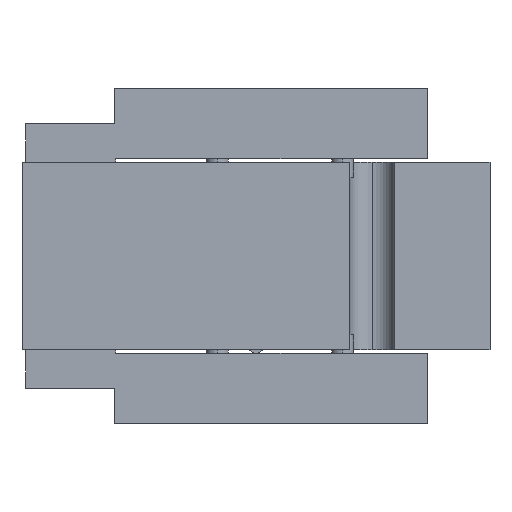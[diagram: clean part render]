
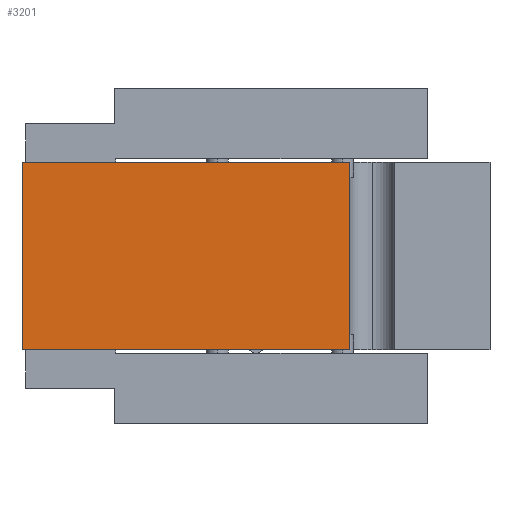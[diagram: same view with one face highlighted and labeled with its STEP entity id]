
A CAD part, left-side view. The second image highlights one B-rep face of the part: STEP entity #3201.
In plain terms, the highlighted planar face has unit normal (-1, 0, 0).
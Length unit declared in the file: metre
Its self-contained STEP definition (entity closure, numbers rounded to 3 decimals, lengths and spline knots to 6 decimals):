
#182 = ORIENTED_EDGE ( 'NONE', *, *, #1731, .T. ) ;
#317 = ORIENTED_EDGE ( 'NONE', *, *, #1759, .T. ) ;
#466 = ORIENTED_EDGE ( 'NONE', *, *, #1918, .T. ) ;
#475 = ORIENTED_EDGE ( 'NONE', *, *, #1816, .F. ) ;
#763 = EDGE_LOOP ( 'NONE', ( #317, #182, #475, #466 ) ) ;
#991 = LINE ( 'NONE', #4348, #998 ) ;
#998 = VECTOR ( 'NONE', #4388, 1. ) ;
#1050 = LINE ( 'NONE', #9406, #1052 ) ;
#1052 = VECTOR ( 'NONE', #9319, 1. ) ;
#1144 = LINE ( 'NONE', #9431, #1146 ) ;
#1146 = VECTOR ( 'NONE', #9443, 1. ) ;
#1731 = EDGE_CURVE ( 'NONE', #4088, #4044, #991, .T. ) ;
#1759 = EDGE_CURVE ( 'NONE', #4007, #4088, #1050, .T. ) ;
#1816 = EDGE_CURVE ( 'NONE', #3931, #4044, #1144, .T. ) ;
#1918 = EDGE_CURVE ( 'NONE', #3931, #4007, #4713, .T. ) ;
#3201 = ADVANCED_FACE ( 'NONE', ( #4642 ), #8372, .F. ) ;
#3931 = VERTEX_POINT ( 'NONE', #13164 ) ;
#4007 = VERTEX_POINT ( 'NONE', #13251 ) ;
#4044 = VERTEX_POINT ( 'NONE', #13288 ) ;
#4088 = VERTEX_POINT ( 'NONE', #13331 ) ;
#4348 = CARTESIAN_POINT ( 'NONE',  ( 0., 0.019, 0.021268 ) ) ;
#4388 = DIRECTION ( 'NONE',  ( 0., 0., 1. ) ) ;
#4424 = DIRECTION ( 'NONE',  ( 0., 0., -1. ) ) ;
#4426 = CARTESIAN_POINT ( 'NONE',  ( 0., 0.0635, 0.046668 ) ) ;
#4642 = FACE_OUTER_BOUND ( 'NONE', #763, .T. ) ;
#4713 = LINE ( 'NONE', #4426, #4849 ) ;
#4849 = VECTOR ( 'NONE', #4424, 1. ) ;
#4939 = AXIS2_PLACEMENT_3D ( 'NONE', #8391, #8392, #8393 ) ;
#8372 = PLANE ( 'NONE',  #4939 ) ;
#8391 = CARTESIAN_POINT ( 'NONE',  ( 0., 0., 0.046668 ) ) ;
#8392 = DIRECTION ( 'NONE',  ( 1., 0., 0. ) ) ;
#8393 = DIRECTION ( 'NONE',  ( 0., 0., -1. ) ) ;
#9319 = DIRECTION ( 'NONE',  ( 0., -1., 0. ) ) ;
#9406 = CARTESIAN_POINT ( 'NONE',  ( 0., 0., 0.021268 ) ) ;
#9431 = CARTESIAN_POINT ( 'NONE',  ( 0., 0., 0.046668 ) ) ;
#9443 = DIRECTION ( 'NONE',  ( 0., -1., 0. ) ) ;
#13164 = CARTESIAN_POINT ( 'NONE',  ( 0., 0.0635, 0.046668 ) ) ;
#13251 = CARTESIAN_POINT ( 'NONE',  ( 0., 0.0635, 0.021268 ) ) ;
#13288 = CARTESIAN_POINT ( 'NONE',  ( 0., 0.019, 0.046668 ) ) ;
#13331 = CARTESIAN_POINT ( 'NONE',  ( 0., 0.019, 0.021268 ) ) ;
